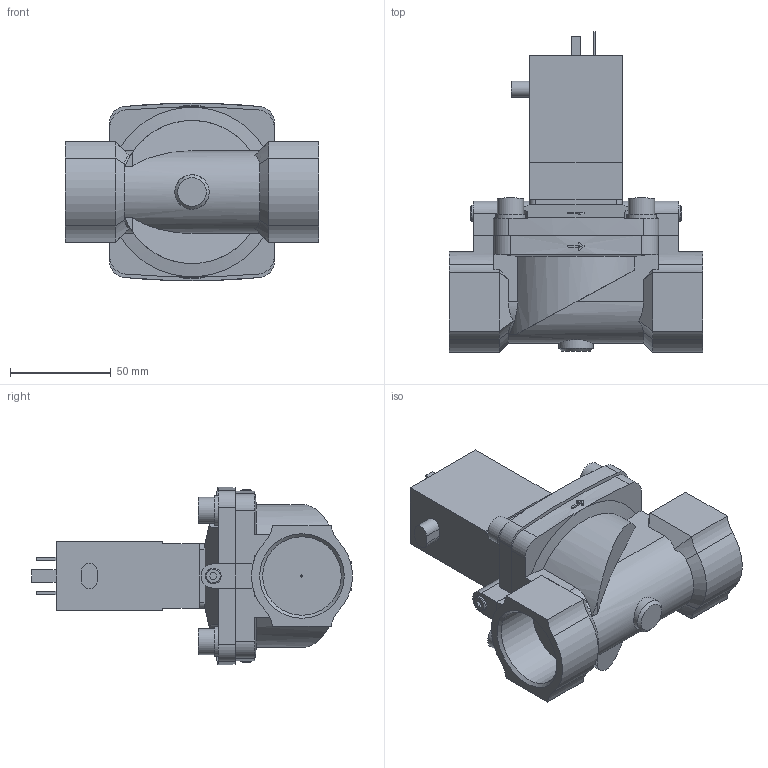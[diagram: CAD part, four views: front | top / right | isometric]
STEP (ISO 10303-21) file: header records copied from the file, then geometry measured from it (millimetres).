
FILE_DESCRIPTION( ( 'STEP AP214' ), '1' );
FILE_NAME( 'p:/temp/worker_30/temp/app_47_02018110215340405653923192d056f_000000_00_00_000000/format_0/5282-134470-Servo-assisted_2_2_way_diaphragm_valve.stp', '2018-11-02T14:34:05', ( '' ), ( '' ), ' ', 'PARTsolutions', ' ' );
FILE_SCHEMA( ( 'AUTOMOTIVE_DESIGN { 1 0 10303 214 1 1 1 1 }' ) );
Length unit declared in the file: millimetre
Products named in the file (4): 5282-134470-Servo-assisted 2/2 way diaphragm valve; HI_5282d-32MSOO2-2/2-Wege-Magnetventil_Deckel; HI_5282g-8732MS -2/2-Wege-Magnetventil_Gehaeuse; HI_0331-MS-3/2-way-Solenoid-Valve or 4-way-combination
Assembly tree (3 placements, depth 2):
  5282-134470-Servo-assisted 2/2 way diaphragm valve
    HI_5282d-32MSOO2-2/2-Wege-Magnetventil_Deckel
    HI_5282g-8732MS -2/2-Wege-Magnetventil_Gehaeuse
    HI_0331-MS-3/2-way-Solenoid-Valve or 4-way-combination
Bounding box: 126 x 158.92 x 88.1 mm (x, y, z)
Volume: 479693.1 mm3; surface area: 77828.5 mm2
Topology: 3 solids, 3 shells, 251 faces, 653 edges, 430 vertices
Faces by surface type: plane 159, cylinder 71, cone 21
Full cylindrical faces by diameter (mm): 1 x1, 7.8 x2, 13 x4, 14.8 x4, 17 x1, 38.952 x2
Entity records: 9880 total; most frequent: CARTESIAN_POINT 1642, DIRECTION 1288, ORIENTED_EDGE 1258, EDGE_CURVE 629, AXIS2_PLACEMENT_3D 447, VERTEX_POINT 425, LINE 394, VECTOR 394
